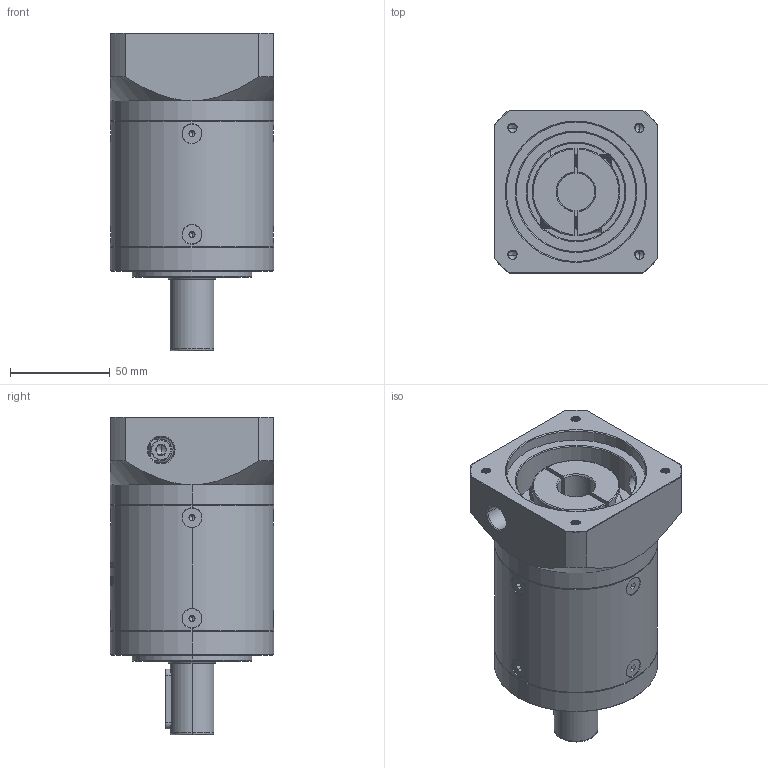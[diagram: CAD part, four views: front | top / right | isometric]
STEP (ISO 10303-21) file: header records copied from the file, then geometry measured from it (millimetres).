
FILE_DESCRIPTION (( 'STEP AP214' ), '1' );
FILE_NAME ('ZE80-D22-L2-19-70-90-M5.step', '2022-05-08T05:54:37', ( '' ), ( 'Microsoft' ), 'SwSTEP 2.0', 'SolidWorks 2016', '' );
FILE_SCHEMA (( 'AUTOMOTIVE_DESIGN' ));
Length unit declared in the file: millimetre
Products named in the file (1): ZE80-D22-L2-19-70-90-M5
Bounding box: 82 x 82 x 159.5 mm (x, y, z)
Volume: 611664.9 mm3; surface area: 87686 mm2
Topology: 13 solids, 13 shells, 2057 faces, 5371 edges, 3402 vertices
Faces by surface type: plane 886, cylinder 500, bspline 332, cone 322, torus 17
Entity records: 118360 total; most frequent: CARTESIAN_POINT 49553, ORIENTED_EDGE 10666, DIRECTION 8186, EDGE_CURVE 5333, VERTEX_POINT 3402, VECTOR 2848, LINE 2848, AXIS2_PLACEMENT_3D 2669
